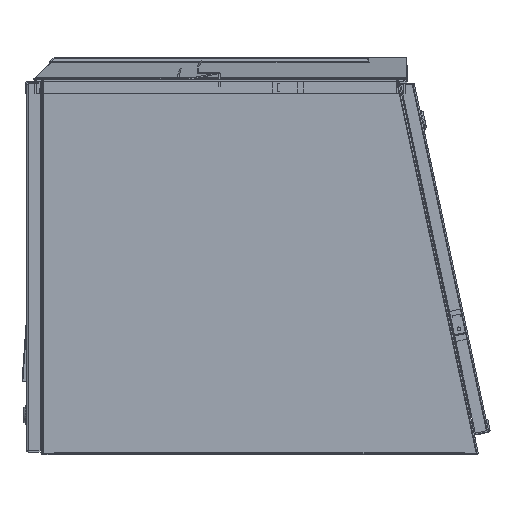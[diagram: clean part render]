
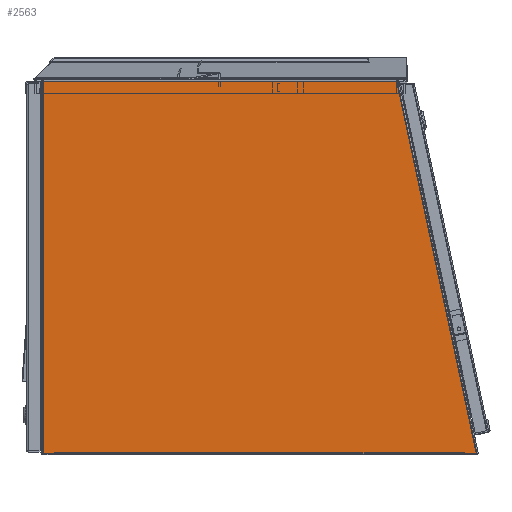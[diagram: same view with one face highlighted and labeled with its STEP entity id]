
A CAD part, left-side view. The second image highlights one B-rep face of the part: STEP entity #2563.
In plain terms, the highlighted planar face has unit normal (-1, 0, 0) as drawn and (0, 0, -1) by its records, which use the part's own axes.
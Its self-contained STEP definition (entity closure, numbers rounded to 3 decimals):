
#2563 = ADVANCED_FACE( '', ( #3558 ), #3559, .T. );
#3558 = FACE_OUTER_BOUND( '', #5728, .T. );
#3559 = PLANE( '', #5729 );
#5728 = EDGE_LOOP( '', ( #9783, #9784, #9785, #9786, #9787, #9788, #9789, #9790, #9791, #9792 ) );
#5729 = AXIS2_PLACEMENT_3D( '', #9793, #9794, #9795 );
#9783 = ORIENTED_EDGE( '', *, *, #16593, .T. );
#9784 = ORIENTED_EDGE( '', *, *, #16490, .F. );
#9785 = ORIENTED_EDGE( '', *, *, #16478, .T. );
#9786 = ORIENTED_EDGE( '', *, *, #16594, .T. );
#9787 = ORIENTED_EDGE( '', *, *, #16592, .F. );
#9788 = ORIENTED_EDGE( '', *, *, #16595, .F. );
#9789 = ORIENTED_EDGE( '', *, *, #16596, .F. );
#9790 = ORIENTED_EDGE( '', *, *, #16568, .F. );
#9791 = ORIENTED_EDGE( '', *, *, #16480, .F. );
#9792 = ORIENTED_EDGE( '', *, *, #16597, .F. );
#9793 = CARTESIAN_POINT( '', ( -296.069, -252.171, 0. ) );
#9794 = DIRECTION( '', ( 0., 0., -1. ) );
#9795 = DIRECTION( '', ( 1., 0., 0. ) );
#16478 = EDGE_CURVE( '', #18685, #18689, #18691, .T. );
#16480 = EDGE_CURVE( '', #18693, #18695, #18696, .T. );
#16490 = EDGE_CURVE( '', #18685, #18708, #18714, .T. );
#16568 = EDGE_CURVE( '', #18695, #18841, #18844, .T. );
#16592 = EDGE_CURVE( '', #18876, #18872, #18878, .T. );
#16593 = EDGE_CURVE( '', #18879, #18708, #18880, .T. );
#16594 = EDGE_CURVE( '', #18689, #18872, #18881, .T. );
#16595 = EDGE_CURVE( '', #18882, #18876, #18883, .T. );
#16596 = EDGE_CURVE( '', #18841, #18882, #18884, .T. );
#16597 = EDGE_CURVE( '', #18879, #18693, #18885, .T. );
#18685 = VERTEX_POINT( '', #22325 );
#18689 = VERTEX_POINT( '', #22331 );
#18691 = LINE( '', #22334, #22335 );
#18693 = VERTEX_POINT( '', #22337 );
#18695 = VERTEX_POINT( '', #22340 );
#18696 = LINE( '', #22341, #22342 );
#18708 = VERTEX_POINT( '', #22358 );
#18714 = LINE( '', #22365, #22366 );
#18841 = VERTEX_POINT( '', #22613 );
#18844 = LINE( '', #22626, #22627 );
#18872 = VERTEX_POINT( '', #22679 );
#18876 = VERTEX_POINT( '', #22685 );
#18878 = LINE( '', #22688, #22689 );
#18879 = VERTEX_POINT( '', #22690 );
#18880 = LINE( '', #22691, #22692 );
#18881 = LINE( '', #22693, #22694 );
#18882 = VERTEX_POINT( '', #22695 );
#18883 = LINE( '', #22696, #22697 );
#18884 = LINE( '', #22698, #22699 );
#18885 = LINE( '', #22700, #22701 );
#22325 = CARTESIAN_POINT( '', ( -276.829, -251.257, 0. ) );
#22331 = CARTESIAN_POINT( '', ( -277.591, -251.257, 0. ) );
#22334 = CARTESIAN_POINT( '', ( -277.591, -251.257, 0. ) );
#22335 = VECTOR( '', #28495, 1000. );
#22337 = CARTESIAN_POINT( '', ( 277.653, -252.171, 0. ) );
#22340 = CARTESIAN_POINT( '', ( 293.326, -252.171, 0. ) );
#22341 = CARTESIAN_POINT( '', ( -296.069, -252.171, 0. ) );
#22342 = VECTOR( '', #28497, 1000. );
#22358 = CARTESIAN_POINT( '', ( 276.891, -251.257, 0. ) );
#22365 = CARTESIAN_POINT( '', ( -276.829, -251.257, 0. ) );
#22366 = VECTOR( '', #28515, 1000. );
#22613 = CARTESIAN_POINT( '', ( 293.326, 252.171, 0. ) );
#22626 = CARTESIAN_POINT( '', ( 293.326, -252.171, 0. ) );
#22627 = VECTOR( '', #28586, 1000. );
#22679 = CARTESIAN_POINT( '', ( -277.591, -252.171, 0. ) );
#22685 = CARTESIAN_POINT( '', ( -293.263, -252.171, 0. ) );
#22688 = CARTESIAN_POINT( '', ( -296.069, -252.171, 0. ) );
#22689 = VECTOR( '', #28609, 1000. );
#22690 = CARTESIAN_POINT( '', ( 277.653, -251.257, 0. ) );
#22691 = CARTESIAN_POINT( '', ( -277.591, -251.257, 0. ) );
#22692 = VECTOR( '', #28610, 1000. );
#22693 = CARTESIAN_POINT( '', ( -277.591, -252.171, 0. ) );
#22694 = VECTOR( '', #28611, 1000. );
#22695 = CARTESIAN_POINT( '', ( -185.313, 252.171, 0. ) );
#22696 = CARTESIAN_POINT( '', ( -185.313, 252.171, 0. ) );
#22697 = VECTOR( '', #28612, 1000. );
#22698 = CARTESIAN_POINT( '', ( 296.069, 252.171, 0. ) );
#22699 = VECTOR( '', #28613, 1000. );
#22700 = CARTESIAN_POINT( '', ( 277.653, -252.171, 0. ) );
#22701 = VECTOR( '', #28614, 1000. );
#28495 = DIRECTION( '', ( -1., 0., 0. ) );
#28497 = DIRECTION( '', ( 1., 0., 0. ) );
#28515 = DIRECTION( '', ( 1., 0., 0. ) );
#28586 = DIRECTION( '', ( 0., 1., 0. ) );
#28609 = DIRECTION( '', ( 1., 0., 0. ) );
#28610 = DIRECTION( '', ( -1., 0., 0. ) );
#28611 = DIRECTION( '', ( 0., -1., 0. ) );
#28612 = DIRECTION( '', ( -0.209, -0.978, 0. ) );
#28613 = DIRECTION( '', ( -1., 0., 0. ) );
#28614 = DIRECTION( '', ( 0., -1., 0. ) );
